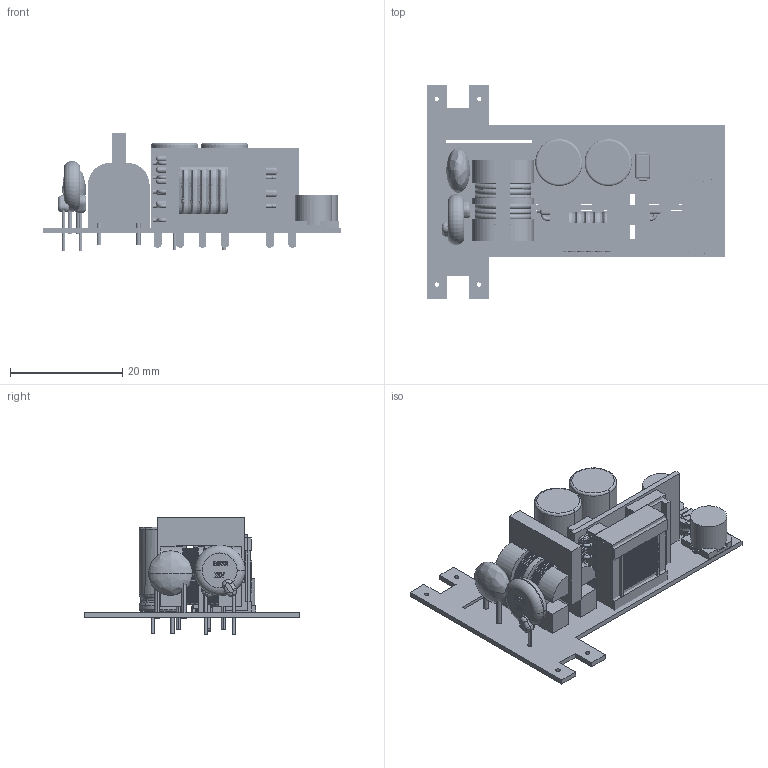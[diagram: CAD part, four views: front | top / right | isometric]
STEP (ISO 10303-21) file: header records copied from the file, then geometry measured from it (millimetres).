
FILE_DESCRIPTION(('Open CASCADE Model'),'2;1');
FILE_NAME('Open CASCADE Shape Model','2026-11-26T12:24:35',('Author'),( 'Open CASCADE'),'Open CASCADE STEP processor 7.5','Open CASCADE 7.5' ,'Unknown');
FILE_SCHEMA(('AUTOMOTIVE_DESIGN { 1 0 10303 214 1 1 1 1 }'));
Length unit declared in the file: millimetre
Products named in the file (16): Open CASCADE STEP translator 7.5 653; Open CASCADE STEP translator 7.5 654; Open CASCADE STEP translator 7.5 655; Open CASCADE STEP translator 7.5 656; Open CASCADE STEP translator 7.5 657; Open CASCADE STEP translator 7.5 658; Open CASCADE STEP translator 7.5 659; Open CASCADE STEP translator 7.5 660; Open CASCADE STEP translator 7.5 661; Open CASCADE STEP translator 7.5 662; Open CASCADE STEP translator 7.5 663; Open CASCADE STEP translator 7.5 664; Open CASCADE STEP translator 7.5 665; Open CASCADE STEP translator 7.5 666; Open CASCADE STEP translator 7.5 667; Open CASCADE STEP translator 7.5 668
Bounding box: 53.02 x 38.23 x 21 mm (x, y, z)
Volume: 7410.6 mm3; surface area: 11064.1 mm2
Topology: 129 solids, 129 shells, 1464 faces, 3526 edges, 2183 vertices
Faces by surface type: plane 621, cylinder 288, bspline 282, torus 223, sphere 32, revolution 18
Full cylindrical faces by diameter (mm): 0.559 x1, 0.762 x10, 1 x6, 6.462 x2
Entity records: 90099 total; most frequent: CARTESIAN_POINT 49647, ORIENTED_EDGE 7034, DIRECTION 6307, EDGE_CURVE 3517, AXIS2_PLACEMENT_3D 2240, VERTEX_POINT 2174, LINE 1809, VECTOR 1809
